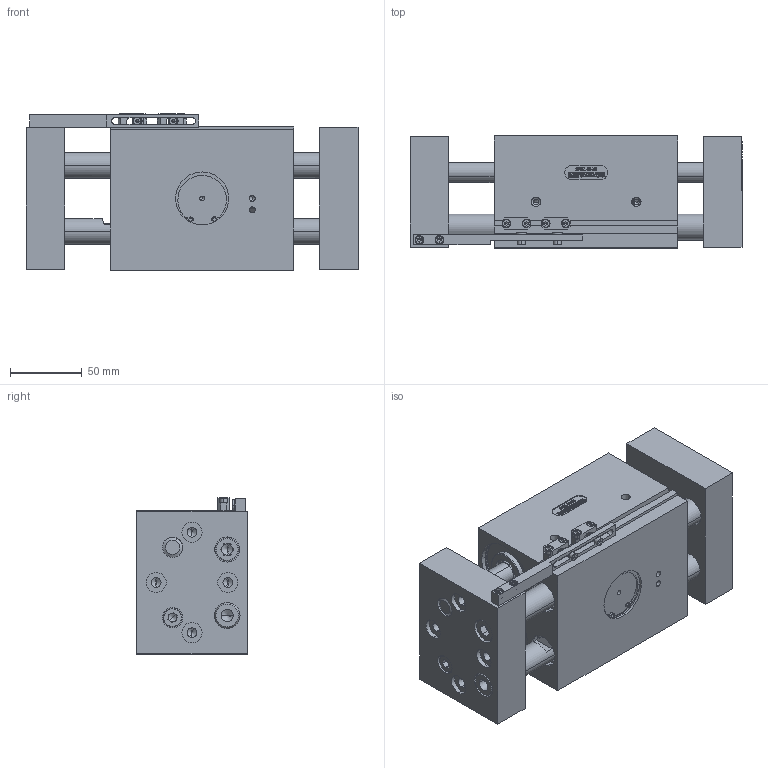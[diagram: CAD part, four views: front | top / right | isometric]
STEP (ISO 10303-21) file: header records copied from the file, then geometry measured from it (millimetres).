
FILE_DESCRIPTION (( 'STEP AP214' ), '1' );
FILE_NAME ('2PLG42-50.STEP', '2012-03-05T08:29:22', ( 'xw4600' ), ( '' ), 'SwSTEP 2.0', 'SolidWorks 2010', '' );
FILE_SCHEMA (( 'AUTOMOTIVE_DESIGN' ));
Length unit declared in the file: millimetre
Products named in the file (27): PLG42-A00-01_Default; PLG42-A00-06_Default; PLG42-A00-03_Default; PLG42-A00-04_Default; PLG42-A00-05_ISO - Spur gear 2M 16T 20PA 12FW ---S16A75H50L15.0N; PLG42-A00-09_Default; PLG42-A00-08_Default; PLG42-A00-02_Default; PLG42-A00-11_Default; PLG42-A00-12_Default; PLG42-A00-13_Default; backup ring(Q4113)_Default; Q-ring(Q4113)_Default; backup ring(Q4220)_Default; Q-ring(Q4220)_Default; DUST WIPER(FQ0007DO)_Default; BEARING(607ZZ)_KS B 2023 S60 - 607-D-C; Socket Head Cap Screw_ISO_ISO 4762 M3 x 6 --- 6N; mark42-50_Default; Socket Head Cap Screw_ISO_ISO 4762 M3 x 12 --- 12N; hex thin nut_Hexagon Thin Nut ISO - 4035 - M3 - N; Socket Head Cap Screw_ISO_ISO 4762 M3 x 10 --- 10N; socket head cap screw_KS 1003 - M8 x 35 x 35-N; 2PLG42-50; socket head cap screw_KS 1003 - M10 x 25 x 25-N; S.RING(H19)_KS 1336 I - 19; S.RING(H37)_KS 1336 I - 37
Assembly tree (74 placements, depth 2):
  2PLG42-50
    PLG42-A00-13_Default  x2
    backup ring(Q4113)_Default  x16
    DUST WIPER(FQ0007DO)_Default  x4
    socket head cap screw_KS 1003 - M10 x 25 x 25-N  x2
    Q-ring(Q4220)_Default  x2
    Socket Head Cap Screw_ISO_ISO 4762 M3 x 12 --- 12N  x4
    socket head cap screw_KS 1003 - M8 x 35 x 35-N  x2
    PLG42-A00-03_Default  x2
    PLG42-A00-05_ISO - Spur gear 2M 16T 20PA 12FW ---S16A75H50L15.0N
    backup ring(Q4220)_Default  x8
    PLG42-A00-12_Default  x2
    Q-ring(Q4113)_Default  x4
    Socket Head Cap Screw_ISO_ISO 4762 M3 x 10 --- 10N  x2
    PLG42-A00-06_Default  x4
    mark42-50_Default  x2
    PLG42-A00-11_Default
    hex thin nut_Hexagon Thin Nut ISO - 4035 - M3 - N  x4
    PLG42-A00-04_Default  x2
    PLG42-A00-01_Default
    PLG42-A00-02_Default  x2
    Socket Head Cap Screw_ISO_ISO 4762 M3 x 6 --- 6N  x2
    S.RING(H37)_KS 1336 I - 37
    S.RING(H19)_KS 1336 I - 19
    PLG42-A00-09_Default
    BEARING(607ZZ)_KS B 2023 S60 - 607-D-C
    PLG42-A00-08_Default
Bounding box: 231.5 x 78 x 109 mm (x, y, z)
Volume: 1201840.9 mm3; surface area: 328573.4 mm2
Topology: 74 solids, 80 shells, 3799 faces, 9280 edges, 5857 vertices
Faces by surface type: plane 1761, cylinder 741, bspline 558, torus 449, cone 270, sphere 20
Entity records: 84628 total; most frequent: CARTESIAN_POINT 28502, ORIENTED_EDGE 9578, DIRECTION 8770, EDGE_CURVE 4789, VERTEX_POINT 3073, AXIS2_PLACEMENT_3D 3053, LINE 2664, VECTOR 2664
